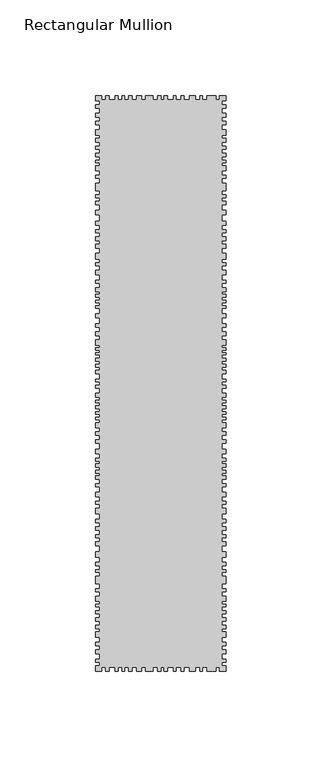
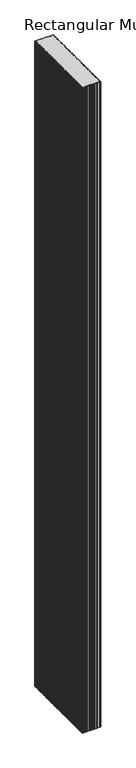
"""IFC4 building model written with IfcOpenShell, lengths in millimetres: member geometry, Rectangular Mullion : DucoSun Cubic Design louvre 300."""

from ifc_helpers import new_model, si_unit, frame, origin, place, context, project, spatial, polyline, outline, extrude, source, transform, mapped, element, save


def rectangular_mullion_9afa0fde(model_context):
    return source(origin(), model_context, "Body", "SweptSolid", [
        extrude(outline(polyline([(0.0, 297.3782451), (-2.0, 297.3782451), (-2.0, 295.4241521), (0.0, 295.4241521), (0.0, 293.6532553), (-2.0, 293.6532553), (-2.0, 290.9460223), (0.0, 290.9460223), (0.0, 288.9105087), (-2.0, 288.9105087), (-2.0, 286.7121541), (0.0, 286.7121541), (0.0, 285.0023227), (-2.0, 285.0023227), (-2.0, 282.3561551), (0.0, 282.3561551), (0.0, 279.3843053), (-2.0, 279.3843053), (-2.0, 277.8917893), (0.0, 277.8917893), (0.0, 275.8425117), (-2.0, 275.8425117), (-2.0, 273.8680636), (0.0, 273.8680636), (0.0, 272.1582322), (-2.0, 272.1582322), (-2.0, 270.0820083), (0.0, 270.0820083), (0.0, 268.3111116), (-2.0, 268.3111116), (-2.0, 266.4995045), (0.0, 266.4995045), (0.0, 265.0713495), (-2.0, 265.0713495), (-2.0, 263.4577392), (0.0, 263.4577392), (0.0, 261.0328231), (-2.0, 261.0328231), (-2.0, 258.5725067), (0.0, 258.5725067), (0.0, 257.0325964), (-2.0, 257.0325964), (-2.0, 254.5014796), (0.0, 254.5014796), (0.0, 250.4127524), (-2.0, 250.4127524), (-2.0, 248.4126391), (0.0, 248.4126391), (0.0, 246.8373286), (-2.0, 246.8373286), (-2.0, 244.9965163), (0.0, 244.9965163), (0.0, 243.3504053), (-2.0, 243.3504053), (-2.0, 240.3767855), (0.0, 240.3767855), (0.0, 237.9545244), (-2.0, 237.9545244), (-2.0, 234.5552168), (0.0, 234.5552168), (0.0, 232.5197032), (-2.0, 232.5197032), (-2.0, 230.239928), (0.0, 230.239928), (0.0, 228.6929377), (-2.0, 228.6929377), (-2.0, 226.4335177), (0.0, 226.4335177), (0.0, 224.5608452), (-2.0, 224.5608452), (-2.0, 222.6271073), (0.0, 222.6271073), (0.0, 220.5508835), (-2.0, 220.5508835), (-2.0, 218.0064916), (0.0, 218.0064916), (0.0, 214.9328661), (-2.0, 214.9328661), (-2.0, 212.9177077), (0.0, 212.9177077), (0.0, 211.4114277), (-2.0, 211.4114277), (-2.0, 208.9688114), (0.0, 208.9688114), (0.0, 206.7118273), (-2.0, 206.7118273), (-2.0, 203.8852623), (0.0, 203.8852623), (0.0, 202.4316003), (-2.0, 202.4316003), (-2.0, 199.9011516), (0.0, 199.9011516), (0.0, 197.8552569), (-2.0, 197.8552569), (-2.0, 196.6169522), (0.0, 196.6169522), (0.0, 195.0825312), (-2.0, 195.0825312), (-2.0, 193.4673512), (0.0, 193.4673512), (0.0, 192.0675286), (-2.0, 192.0675286), (-2.0, 190.5869469), (0.0, 190.5869469), (0.0, 189.1602046), (-2.0, 189.1602046), (-2.0, 186.3310055), (0.0, 186.3310055), (0.0, 184.2608252), (-2.0, 184.2608252), (-2.0, 181.1919832), (0.0, 181.1919832), (0.0, 179.2537672), (-2.0, 179.2537672), (-2.0, 176.9360418), (0.0, 176.9360418), (0.0, 175.0004598), (-2.0, 175.0004598), (-2.0, 172.9007258), (0.0, 172.9007258), (0.0, 170.1010805), (-2.0, 170.1010805), (-2.0, 168.8089365), (0.0, 168.8089365), (0.0, 167.3014351), (-2.0, 167.3014351), (-2.0, 166.0362108), (0.0, 166.0362108), (0.0, 165.0401831), (-2.0, 165.0401831), (-2.0, 163.2096458), (0.0, 163.2096458), (0.0, 161.6483051), (-2.0, 161.6483051), (-2.0, 160.1408038), (0.0, 160.1408038), (0.0, 158.6063828), (-2.0, 158.6063828), (-2.0, 157.0719618), (0.0, 157.0719618), (0.0, 155.0799064), (-2.0, 155.0799064), (-2.0, 152.3762692), (0.0, 152.3762692), (0.0, 150.8903036), (-2.0, 150.8903036), (-2.0, 149.1257194), (0.0, 149.1257194), (0.0, 147.6087962), (-2.0, 147.6087962), (-2.0, 144.8535683), (0.0, 144.8535683), (0.0, 142.7484504), (-2.0, 142.7484504), (-2.0, 141.4172729), (0.0, 141.4172729), (0.0, 139.9622649), (-2.0, 139.9622649), (-2.0, 138.3524688), (0.0, 138.3524688), (0.0, 136.8355456), (-2.0, 136.8355456), (-2.0, 135.1947919), (0.0, 135.1947919), (0.0, 133.9255296), (-2.0, 133.9255296), (-2.0, 132.5014792), (0.0, 132.5014792), (0.0, 131.1083865), (-2.0, 131.1083865), (-2.0, 129.6843361), (0.0, 129.6843361), (0.0, 127.0529387), (-2.0, 127.0529387), (-2.0, 124.9787784), (0.0, 124.9787784), (0.0, 123.0284485), (-2.0, 123.0284485), (-2.0, 120.7995001), (0.0, 120.7995001), (0.0, 118.8182126), (-2.0, 118.8182126), (-2.0, 115.6914933), (0.0, 115.6914933), (0.0, 113.4935025), (-2.0, 113.4935025), (-2.0, 110.954978), (0.0, 110.954978), (0.0, 109.4070971), (-2.0, 109.4070971), (-2.0, 108.1378348), (0.0, 108.1378348), (0.0, 106.4970812), (-2.0, 106.4970812), (-2.0, 104.8253698), (0.0, 104.8253698), (0.0, 103.3394042), (-2.0, 103.3394042), (-2.0, 102.0391843), (0.0, 102.0391843), (0.0, 100.0578969), (-2.0, 100.0578969), (-2.0, 97.6741604), (0.0, 97.6741604), (0.0, 96.0953219), (-2.0, 96.0953219), (-2.0, 93.3091364), (0.0, 93.3091364), (0.0, 91.0182728), (-2.0, 91.0182728), (-2.0, 88.572621), (0.0, 88.572621), (0.0, 87.1485707), (-2.0, 87.1485707), (-2.0, 85.0124951), (0.0, 85.0124951), (0.0, 82.1643944), (-2.0, 82.1643944), (-2.0, 79.3782089), (0.0, 79.3782089), (0.0, 77.427879), (-2.0, 77.427879), (-2.0, 75.4156339), (0.0, 75.4156339), (0.0, 73.6510498), (-2.0, 73.6510498), (-2.0, 71.1744404), (0.0, 71.1744404), (0.0, 69.6884748), (-2.0, 69.6884748), (-2.0, 67.5523993), (0.0, 67.5523993), (0.0, 65.4163237), (-2.0, 65.4163237), (-2.0, 62.1967316), (0.0, 62.1967316), (0.0, 59.5343765), (-2.0, 59.5343765), (-2.0, 56.7791486), (0.0, 56.7791486), (0.0, 55.0764797), (-2.0, 55.0764797), (-2.0, 52.9404041), (0.0, 52.9404041), (0.0, 51.6092266), (-2.0, 51.6092266), (-2.0, 49.5660239), (0.0, 49.5660239), (0.0, 45.512038), (-2.0, 45.512038), (-2.0, 43.0030092), (0.0, 43.0030092), (0.0, 41.3312979), (-2.0, 41.3312979), (-2.0, 39.0404342), (0.0, 39.0404342), (0.0, 36.5638249), (-2.0, 36.5638249), (-2.0, 35.015944), (0.0, 35.015944), (0.0, 33.5609361), (-2.0, 33.5609361), (-2.0, 31.5796486), (0.0, 31.5796486), (0.0, 30.0627254), (-2.0, 30.0627254), (-2.0, 27.8337769), (0.0, 27.8337769), (0.0, 26.1620656), (-2.0, 26.1620656), (-2.0, 24.0259901), (0.0, 24.0259901), (0.0, 22.0756602), (-2.0, 22.0756602), (-2.0, 20.6516099), (0.0, 20.6516099), (0.0, 17.7415939), (-2.0, 17.7415939), (-2.0, 15.2030693), (0.0, 15.2030693), (0.0, 13.1908242), (-2.0, 13.1908242), (-2.0, 11.2404944), (0.0, 11.2404944), (0.0, 9.1353764), (-2.0, 9.1353764), (-2.0, 6.2563181), (0.0, 6.2563181), (0.0, 4.6155644), (-2.0, 4.6155644), (-2.0, 2.8509802), (0.0, 2.8509802), (0.0, 0.0), (-3.5455586, 0.0), (-3.5455586, 2.0), (-5.372058, 2.0), (-5.372058, 0.0), (-10.0157006, 0.0), (-10.0157006, 2.0), (-12.1827337, 2.0), (-12.1827337, 0.0), (-13.6996569, 0.0), (-13.6996569, 2.0), (-16.0524358, 2.0), (-16.0524358, 0.0), (-19.1172399, 0.0), (-19.1172399, 2.0), (-21.9034254, 2.0), (-21.9034254, 0.0), (-23.6060943, 0.0), (-23.6060943, 2.0), (-25.9898308, 2.0), (-25.9898308, 0.0), (-27.4757964, 0.0), (-27.4757964, 2.0), (-30.5115322, 2.0), (-30.5115322, 0.0), (-32.2905711, 0.0), (-32.2905711, 2.0), (-34.0, 2.0), (-34.0, 0.0), (-35.8486488, 0.0), (-35.8486488, 2.0), (-38.2128978, 2.0), (-38.2128978, 0.0), (-41.9816511, 0.0), (-41.9816511, 2.0), (-44.0415908, 2.0), (-44.0415908, 0.0), (-46.7335575, 0.0), (-46.7335575, 2.0), (-49.0041729, 2.0), (-49.0041729, 0.0), (-50.8768453, 0.0), (-50.8768453, 2.0), (-52.9367851, 2.0), (-52.9367851, 0.0), (-54.2710642, 0.0), (-54.2710642, 2.0), (-56.3075955, 2.0), (-56.3075955, 0.0), (-57.8993671, 0.0), (-57.8993671, 2.0), (-60.9658683, 2.0), (-60.9658683, 0.0), (-62.9321744, 0.0), (-62.9321744, 2.0), (-64.8750721, 2.0), (-64.8750721, 0.0), (-68.0, 0.0), (-68.0, 2.8509802), (-66.0, 2.8509802), (-66.0, 4.6155644), (-68.0, 4.6155644), (-68.0, 6.2563181), (-66.0, 6.2563181), (-66.0, 9.1353764), (-68.0, 9.1353764), (-68.0, 11.2404944), (-66.0, 11.2404944), (-66.0, 13.1908242), (-68.0, 13.1908242), (-68.0, 15.2030693), (-66.0, 15.2030693), (-66.0, 17.7415939), (-68.0, 17.7415939), (-68.0, 20.6516099), (-66.0, 20.6516099), (-66.0, 22.0756602), (-68.0, 22.0756602), (-68.0, 24.0259901), (-66.0, 24.0259901), (-66.0, 26.1620656), (-68.0, 26.1620656), (-68.0, 27.8337769), (-66.0, 27.8337769), (-66.0, 30.0627254), (-68.0, 30.0627254), (-68.0, 31.5796486), (-66.0, 31.5796486), (-66.0, 33.5609361), (-68.0, 33.5609361), (-68.0, 35.015944), (-66.0, 35.015944), (-66.0, 36.5638249), (-68.0, 36.5638249), (-68.0, 39.0404342), (-66.0, 39.0404342), (-66.0, 41.3312979), (-68.0, 41.3312979), (-68.0, 43.0030092), (-66.0, 43.0030092), (-66.0, 45.512038), (-68.0, 45.512038), (-68.0, 49.5660239), (-66.0, 49.5660239), (-66.0, 51.6092266), (-68.0, 51.6092266), (-68.0, 52.9404041), (-66.0, 52.9404041), (-66.0, 55.0764797), (-68.0, 55.0764797), (-68.0, 56.7791486), (-66.0, 56.7791486), (-66.0, 59.5343765), (-68.0, 59.5343765), (-68.0, 62.1967316), (-66.0, 62.1967316), (-66.0, 65.4163237), (-68.0, 65.4163237), (-68.0, 67.5523993), (-66.0, 67.5523993), (-66.0, 69.6884748), (-68.0, 69.6884748), (-68.0, 71.1744404), (-66.0, 71.1744404), (-66.0, 73.6510498), (-68.0, 73.6510498), (-68.0, 75.4156339), (-66.0, 75.4156339), (-66.0, 77.427879), (-68.0, 77.427879), (-68.0, 79.3782089), (-66.0, 79.3782089), (-66.0, 82.1643944), (-68.0, 82.1643944), (-68.0, 85.0124951), (-66.0, 85.0124951), (-66.0, 87.1485707), (-68.0, 87.1485707), (-68.0, 88.572621), (-66.0, 88.572621), (-66.0, 91.0182728), (-68.0, 91.0182728), (-68.0, 93.3091364), (-66.0, 93.3091364), (-66.0, 96.0953219), (-68.0, 96.0953219), (-68.0, 97.6741604), (-66.0, 97.6741604), (-66.0, 100.0578969), (-68.0, 100.0578969), (-68.0, 102.0391843), (-66.0, 102.0391843), (-66.0, 103.3394042), (-68.0, 103.3394042), (-68.0, 104.8253698), (-66.0, 104.8253698), (-66.0, 106.4970812), (-68.0, 106.4970812), (-68.0, 108.1378348), (-66.0, 108.1378348), (-66.0, 109.4070971), (-68.0, 109.4070971), (-68.0, 110.954978), (-66.0, 110.954978), (-66.0, 113.4935025), (-68.0, 113.4935025), (-68.0, 115.6914933), (-66.0, 115.6914933), (-66.0, 118.8182126), (-68.0, 118.8182126), (-68.0, 120.7995001), (-66.0, 120.7995001), (-66.0, 123.0284485), (-68.0, 123.0284485), (-68.0, 124.9787784), (-66.0, 124.9787784), (-66.0, 127.0529387), (-68.0, 127.0529387), (-68.0, 129.6843361), (-66.0, 129.6843361), (-66.0, 131.1083865), (-68.0, 131.1083865), (-68.0, 132.5014792), (-66.0, 132.5014792), (-66.0, 133.9255296), (-68.0, 133.9255296), (-68.0, 135.1947919), (-66.0, 135.1947919), (-66.0, 136.8355456), (-68.0, 136.8355456), (-68.0, 138.3524688), (-66.0, 138.3524688), (-66.0, 139.9622649), (-68.0, 139.9622649), (-68.0, 141.4172729), (-66.0, 141.4172729), (-66.0, 142.7484504), (-68.0, 142.7484504), (-68.0, 144.8535683), (-66.0, 144.8535683), (-66.0, 147.6087962), (-68.0, 147.6087962), (-68.0, 149.1257194), (-66.0, 149.1257194), (-66.0, 150.8903036), (-68.0, 150.8903036), (-68.0, 152.3762692), (-66.0, 152.3762692), (-66.0, 155.0799064), (-68.0, 155.0799064), (-68.0, 157.0719618), (-66.0, 157.0719618), (-66.0, 158.6063828), (-68.0, 158.6063828), (-68.0, 160.1408038), (-66.0, 160.1408038), (-66.0, 161.6483051), (-68.0, 161.6483051), (-68.0, 163.2096458), (-66.0, 163.2096458), (-66.0, 165.0401831), (-68.0, 165.0401831), (-68.0, 166.0362108), (-66.0, 166.0362108), (-66.0, 167.3014351), (-68.0, 167.3014351), (-68.0, 168.8089365), (-66.0, 168.8089365), (-66.0, 170.1010805), (-68.0, 170.1010805), (-68.0, 172.9007258), (-66.0, 172.9007258), (-66.0, 175.0004598), (-68.0, 175.0004598), (-68.0, 176.9360418), (-66.0, 176.9360418), (-66.0, 179.2537672), (-68.0, 179.2537672), (-68.0, 181.1919832), (-66.0, 181.1919832), (-66.0, 184.2608252), (-68.0, 184.2608252), (-68.0, 186.3310055), (-66.0, 186.3310055), (-66.0, 189.1602046), (-68.0, 189.1602046), (-68.0, 190.5869469), (-66.0, 190.5869469), (-66.0, 192.0675286), (-68.0, 192.0675286), (-68.0, 193.4673512), (-66.0, 193.4673512), (-66.0, 195.0825312), (-68.0, 195.0825312), (-68.0, 196.6169522), (-66.0, 196.6169522), (-66.0, 197.8552569), (-68.0, 197.8552569), (-68.0, 199.9011516), (-66.0, 199.9011516), (-66.0, 202.4316003), (-68.0, 202.4316003), (-68.0, 203.8852623), (-66.0, 203.8852623), (-66.0, 206.7118273), (-68.0, 206.7118273), (-68.0, 208.9688114), (-66.0, 208.9688114), (-66.0, 211.4114277), (-68.0, 211.4114277), (-68.0, 212.9177077), (-66.0, 212.9177077), (-66.0, 214.9328661), (-68.0, 214.9328661), (-68.0, 218.0064916), (-66.0, 218.0064916), (-66.0, 220.5508835), (-68.0, 220.5508835), (-68.0, 222.6271073), (-66.0, 222.6271073), (-66.0, 224.5608452), (-68.0, 224.5608452), (-68.0, 226.4335177), (-66.0, 226.4335177), (-66.0, 228.6929377), (-68.0, 228.6929377), (-68.0, 230.239928), (-66.0, 230.239928), (-66.0, 232.5197032), (-68.0, 232.5197032), (-68.0, 234.5552168), (-66.0, 234.5552168), (-66.0, 237.9545244), (-68.0, 237.9545244), (-68.0, 240.3767855), (-66.0, 240.3767855), (-66.0, 243.3504053), (-68.0, 243.3504053), (-68.0, 244.9965163), (-66.0, 244.9965163), (-66.0, 246.8373286), (-68.0, 246.8373286), (-68.0, 248.4126391), (-66.0, 248.4126391), (-66.0, 250.4127524), (-68.0, 250.4127524), (-68.0, 254.5014796), (-66.0, 254.5014796), (-66.0, 257.0325964), (-68.0, 257.0325964), (-68.0, 258.5725067), (-66.0, 258.5725067), (-66.0, 261.0328231), (-68.0, 261.0328231), (-68.0, 263.4577392), (-66.0, 263.4577392), (-66.0, 265.0713495), (-68.0, 265.0713495), (-68.0, 266.4995045), (-66.0, 266.4995045), (-66.0, 268.3111116), (-68.0, 268.3111116), (-68.0, 270.0820083), (-66.0, 270.0820083), (-66.0, 272.1582322), (-68.0, 272.1582322), (-68.0, 273.8680636), (-66.0, 273.8680636), (-66.0, 275.8425117), (-68.0, 275.8425117), (-68.0, 277.8917893), (-66.0, 277.8917893), (-66.0, 279.3843053), (-68.0, 279.3843053), (-68.0, 282.3561551), (-66.0, 282.3561551), (-66.0, 285.0023227), (-68.0, 285.0023227), (-68.0, 286.7121541), (-66.0, 286.7121541), (-66.0, 288.9105087), (-68.0, 288.9105087), (-68.0, 290.9460223), (-66.0, 290.9460223), (-66.0, 293.6532553), (-68.0, 293.6532553), (-68.0, 295.4241521), (-66.0, 295.4241521), (-66.0, 297.3782451), (-68.0, 297.3782451), (-68.0, 300.0), (-64.8750721, 300.0), (-64.8750721, 298.0), (-62.9321744, 298.0), (-62.9321744, 300.0), (-60.9658683, 300.0), (-60.9658683, 298.0), (-57.8993671, 298.0), (-57.8993671, 300.0), (-56.3075955, 300.0), (-56.3075955, 298.0), (-54.2710642, 298.0), (-54.2710642, 300.0), (-52.9367851, 300.0), (-52.9367851, 298.0), (-50.8768453, 298.0), (-50.8768453, 300.0), (-49.0041729, 300.0), (-49.0041729, 298.0), (-46.7335575, 298.0), (-46.7335575, 300.0), (-44.0415908, 300.0), (-44.0415908, 298.0), (-41.9816511, 298.0), (-41.9816511, 300.0), (-38.2128978, 300.0), (-38.2128978, 298.0), (-35.8486488, 298.0), (-35.8486488, 300.0), (-34.0, 300.0), (-34.0, 298.0), (-32.2905711, 298.0), (-32.2905711, 300.0), (-30.5115322, 300.0), (-30.5115322, 298.0), (-27.4757964, 298.0), (-27.4757964, 300.0), (-25.9898308, 300.0), (-25.9898308, 298.0), (-23.6060943, 298.0), (-23.6060943, 300.0), (-21.9034254, 300.0), (-21.9034254, 298.0), (-19.1172399, 298.0), (-19.1172399, 300.0), (-16.0524358, 300.0), (-16.0524358, 298.0), (-13.6996569, 298.0), (-13.6996569, 300.0), (-12.1827337, 300.0), (-12.1827337, 298.0), (-10.0157006, 298.0), (-10.0157006, 300.0), (-5.372058, 300.0), (-5.372058, 298.0), (-3.5455586, 298.0), (-3.5455586, 300.0), (0.0, 300.0), (0.0, 297.3782451)])), frame((0.0, 0.0, -2500.0), z_axis=(0.0, 0.0, 1.0), x_axis=(1.0, 0.0, 0.0)), (0.0, 0.0, 1.0), 2500.0),
    ])


if __name__ == "__main__":
    model = new_model("IFC4")
    model_context = context("Model", 3, world=origin())
    ifc_project = project(units=[si_unit("LENGTHUNIT", "METRE", prefix="MILLI")], contexts=[model_context])
    site = spatial("IfcSite", under=ifc_project)
    building = spatial("IfcBuilding", under=site)
    placement = place(None, origin())
    rectangular_mullion_shape = rectangular_mullion_9afa0fde(model_context)
    element("IfcMember", 1, ObjectType="Rectangular Mullion : DucoSun Cubic Design louvre 300", at=placement, inside=building, context=model_context, shape_type="MappedRepresentation", body=[
        mapped(rectangular_mullion_shape, transform((0.0, 0.0, 0.0), x_axis=(1.0, 0.0, 0.0), y_axis=(0.0, 1.0, 0.0), z_axis=(0.0, 0.0, 1.0))),
    ])
    save(model, "model.ifc")
